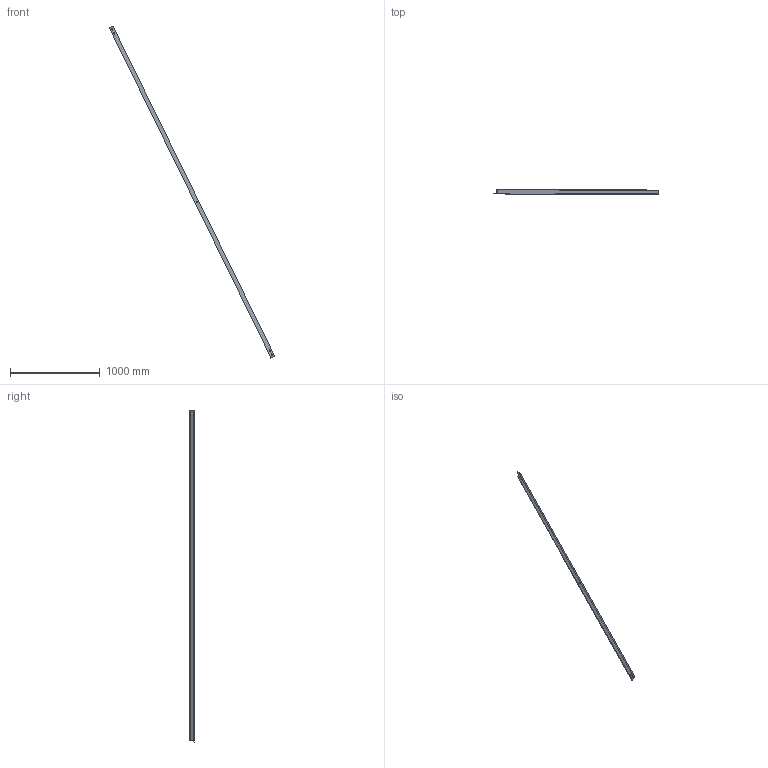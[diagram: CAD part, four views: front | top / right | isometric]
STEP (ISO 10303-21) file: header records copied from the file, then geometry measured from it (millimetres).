
FILE_DESCRIPTION (( 'STEP AP214' ), '1' );
FILE_NAME ('CCJ029-REP.055 - CONTREVENTEMENT C4-C5.STEP', '2024-01-10T14:44:30', ( '' ), ( '' ), 'SwSTEP 2.0', 'SolidWorks 2021', '' );
FILE_SCHEMA (( 'AUTOMOTIVE_DESIGN' ));
Length unit declared in the file: millimetre
Products named in the file (1): CCJ029-REP.055 - CONTREVENTEMENT C4-C5
Bounding box: 1846.83 x 50 x 3697.94 mm (x, y, z)
Volume: 1962245.6 mm3; surface area: 794687.7 mm2
Topology: 1 solids, 1 shells, 21 faces, 57 edges, 38 vertices
Faces by surface type: cylinder 13, plane 8
Entity records: 731 total; most frequent: DIRECTION 127, CARTESIAN_POINT 117, ORIENTED_EDGE 114, EDGE_CURVE 57, AXIS2_PLACEMENT_3D 48, VERTEX_POINT 38, EDGE_LOOP 31, LINE 31
